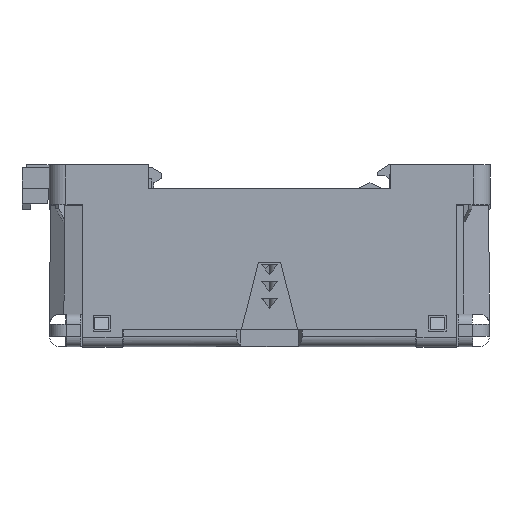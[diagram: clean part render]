
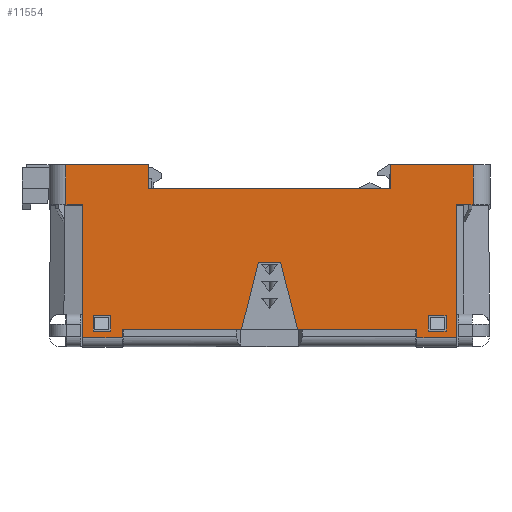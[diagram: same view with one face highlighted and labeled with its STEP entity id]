
A CAD part, left-side view. The second image highlights one B-rep face of the part: STEP entity #11554.
In plain terms, the highlighted planar face has unit normal (-1, 0, 0).
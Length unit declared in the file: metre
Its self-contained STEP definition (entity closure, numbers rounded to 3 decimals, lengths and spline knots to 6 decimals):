
#492=CARTESIAN_POINT('',(-0.019,-0.0218,-0.0197));
#493=VERTEX_POINT('',#492);
#496=CARTESIAN_POINT('',(-0.019,-0.0218,-0.0185));
#497=DIRECTION('',(0.,0.,-1.));
#498=VECTOR('',#497,1.);
#499=LINE('',#496,#498);
#500=CARTESIAN_POINT('',(-0.019,-0.0218,-0.0185));
#501=VERTEX_POINT('',#500);
#502=EDGE_CURVE('',#501,#493,#499,.T.);
#541=CARTESIAN_POINT('',(-0.019,-0.0276,-0.0197));
#542=VERTEX_POINT('',#541);
#545=CARTESIAN_POINT('',(-0.019,-0.0326,-0.0197));
#546=DIRECTION('',(0.,1.,0.));
#547=VECTOR('',#546,1.);
#548=LINE('',#545,#547);
#549=EDGE_CURVE('',#542,#493,#548,.T.);
#574=CARTESIAN_POINT('',(-0.019,-0.0276,-0.0211));
#575=DIRECTION('',(0.,0.,1.));
#576=VECTOR('',#575,1.);
#577=LINE('',#574,#576);
#578=CARTESIAN_POINT('',(-0.019,-0.0276,0.));
#579=VERTEX_POINT('',#578);
#580=EDGE_CURVE('',#542,#579,#577,.T.);
#1315=CARTESIAN_POINT('',(-0.019,0.0218,-0.0211));
#1316=DIRECTION('',(0.,0.,1.));
#1317=VECTOR('',#1316,1.);
#1318=LINE('',#1315,#1317);
#1319=CARTESIAN_POINT('',(-0.019,0.0218,-0.0197));
#1320=VERTEX_POINT('',#1319);
#1321=CARTESIAN_POINT('',(-0.019,0.0218,-0.0185));
#1322=VERTEX_POINT('',#1321);
#1323=EDGE_CURVE('',#1320,#1322,#1318,.T.);
#1369=CARTESIAN_POINT('',(-0.019,-0.0326,-0.0197));
#1370=DIRECTION('',(0.,1.,0.));
#1371=VECTOR('',#1370,1.);
#1372=LINE('',#1369,#1371);
#1373=CARTESIAN_POINT('',(-0.019,0.0276,-0.0197));
#1374=VERTEX_POINT('',#1373);
#1375=EDGE_CURVE('',#1320,#1374,#1372,.T.);
#1417=CARTESIAN_POINT('',(-0.019,0.0276,-0.0211));
#1418=DIRECTION('',(0.,0.,1.));
#1419=VECTOR('',#1418,1.);
#1420=LINE('',#1417,#1419);
#1421=CARTESIAN_POINT('',(-0.019,0.0276,0.));
#1422=VERTEX_POINT('',#1421);
#1423=EDGE_CURVE('',#1374,#1422,#1420,.T.);
#3217=CARTESIAN_POINT('',(-0.019,0.0301,0.0024));
#3218=DIRECTION('',(0.,0.,-1.));
#3219=VECTOR('',#3218,1.);
#3220=LINE('',#3217,#3219);
#3221=CARTESIAN_POINT('',(-0.019,0.0301,0.0059));
#3222=VERTEX_POINT('',#3221);
#3223=CARTESIAN_POINT('',(-0.019,0.0301,0.));
#3224=VERTEX_POINT('',#3223);
#3225=EDGE_CURVE('',#3222,#3224,#3220,.T.);
#3956=CARTESIAN_POINT('',(-0.019,0.0301,0.0059));
#3957=DIRECTION('',(0.,-1.,0.));
#3958=VECTOR('',#3957,1.);
#3959=LINE('',#3956,#3958);
#3960=CARTESIAN_POINT('',(-0.019,0.0179,0.0059));
#3961=VERTEX_POINT('',#3960);
#3962=EDGE_CURVE('',#3222,#3961,#3959,.T.);
#4095=CARTESIAN_POINT('',(-0.019,0.0179,0.0059));
#4096=DIRECTION('',(0.,0.,-1.));
#4097=VECTOR('',#4096,1.);
#4098=LINE('',#4095,#4097);
#4099=CARTESIAN_POINT('',(-0.019,0.0179,0.0024));
#4100=VERTEX_POINT('',#4099);
#4101=EDGE_CURVE('',#3961,#4100,#4098,.T.);
#4947=CARTESIAN_POINT('',(-0.019,-0.0326,0.));
#4948=DIRECTION('',(0.,1.,0.));
#4949=VECTOR('',#4948,1.);
#4950=LINE('',#4947,#4949);
#4951=EDGE_CURVE('',#1422,#3224,#4950,.T.);
#6723=CARTESIAN_POINT('',(-0.019,-0.0301,0.0059));
#6724=VERTEX_POINT('',#6723);
#6727=CARTESIAN_POINT('',(-0.019,-0.0301,0.0024));
#6728=DIRECTION('',(0.,0.,-1.));
#6729=VECTOR('',#6728,1.);
#6730=LINE('',#6727,#6729);
#6731=CARTESIAN_POINT('',(-0.019,-0.0301,0.));
#6732=VERTEX_POINT('',#6731);
#6733=EDGE_CURVE('',#6724,#6732,#6730,.T.);
#7051=CARTESIAN_POINT('',(-0.019,-0.0179,0.0059));
#7052=VERTEX_POINT('',#7051);
#7055=CARTESIAN_POINT('',(-0.019,-0.0179,0.0059));
#7056=DIRECTION('',(0.,-1.,0.));
#7057=VECTOR('',#7056,1.);
#7058=LINE('',#7055,#7057);
#7059=EDGE_CURVE('',#7052,#6724,#7058,.T.);
#7351=CARTESIAN_POINT('',(-0.019,-0.0179,0.0024));
#7352=VERTEX_POINT('',#7351);
#7355=CARTESIAN_POINT('',(-0.019,-0.0179,0.0059));
#7356=DIRECTION('',(0.,0.,-1.));
#7357=VECTOR('',#7356,1.);
#7358=LINE('',#7355,#7357);
#7359=EDGE_CURVE('',#7052,#7352,#7358,.T.);
#7949=CARTESIAN_POINT('',(-0.019,-0.0326,0.0024));
#7950=DIRECTION('',(0.,1.,0.));
#7951=VECTOR('',#7950,1.);
#7952=LINE('',#7949,#7951);
#7953=EDGE_CURVE('',#7352,#4100,#7952,.T.);
#10579=EDGE_CURVE('',#6732,#579,#4950,.T.);
#10934=CARTESIAN_POINT('',(-0.019,0.0218,-0.0185));
#10935=DIRECTION('',(0.,-1.,0.));
#10936=VECTOR('',#10935,1.);
#10937=LINE('',#10934,#10936);
#10938=CARTESIAN_POINT('',(-0.019,-0.00415,-0.0185));
#10939=VERTEX_POINT('',#10938);
#10940=EDGE_CURVE('',#10939,#501,#10937,.T.);
#10962=CARTESIAN_POINT('',(-0.019,0.00415,-0.0185));
#10963=VERTEX_POINT('',#10962);
#10966=EDGE_CURVE('',#1322,#10963,#10937,.T.);
#10985=CARTESIAN_POINT('',(-0.019,0.00415,-0.0185));
#10986=DIRECTION('',(0.,-0.243,0.97));
#10987=VECTOR('',#10986,1.);
#10988=LINE('',#10985,#10987);
#10989=CARTESIAN_POINT('',(-0.019,0.00165,-0.0085));
#10990=VERTEX_POINT('',#10989);
#10991=EDGE_CURVE('',#10963,#10990,#10988,.T.);
#11024=CARTESIAN_POINT('',(-0.019,0.00165,-0.0085));
#11025=DIRECTION('',(0.,-1.,0.));
#11026=VECTOR('',#11025,1.);
#11027=LINE('',#11024,#11026);
#11028=CARTESIAN_POINT('',(-0.019,-0.00165,-0.0085));
#11029=VERTEX_POINT('',#11028);
#11030=EDGE_CURVE('',#10990,#11029,#11027,.T.);
#11063=CARTESIAN_POINT('',(-0.019,-0.00165,-0.0085));
#11064=DIRECTION('',(0.,-0.243,-0.97));
#11065=VECTOR('',#11064,1.);
#11066=LINE('',#11063,#11065);
#11067=EDGE_CURVE('',#11029,#10939,#11066,.T.);
#11383=CARTESIAN_POINT('',(-0.019,0.0235,-0.0187));
#11384=VERTEX_POINT('',#11383);
#11387=CARTESIAN_POINT('',(-0.019,0.0235,-0.0164));
#11388=DIRECTION('',(0.,0.,-1.));
#11389=VECTOR('',#11388,1.);
#11390=LINE('',#11387,#11389);
#11391=CARTESIAN_POINT('',(-0.019,0.0235,-0.0164));
#11392=VERTEX_POINT('',#11391);
#11393=EDGE_CURVE('',#11392,#11384,#11390,.T.);
#11414=CARTESIAN_POINT('',(-0.019,0.0261,-0.0164));
#11415=DIRECTION('',(0.,-1.,0.));
#11416=VECTOR('',#11415,1.);
#11417=LINE('',#11414,#11416);
#11418=CARTESIAN_POINT('',(-0.019,0.0261,-0.0164));
#11419=VERTEX_POINT('',#11418);
#11420=EDGE_CURVE('',#11419,#11392,#11417,.T.);
#11441=CARTESIAN_POINT('',(-0.019,0.0261,-0.0187));
#11442=DIRECTION('',(0.,0.,1.));
#11443=VECTOR('',#11442,1.);
#11444=LINE('',#11441,#11443);
#11445=CARTESIAN_POINT('',(-0.019,0.0261,-0.0187));
#11446=VERTEX_POINT('',#11445);
#11447=EDGE_CURVE('',#11446,#11419,#11444,.T.);
#11468=CARTESIAN_POINT('',(-0.019,0.0235,-0.0187));
#11469=DIRECTION('',(0.,1.,0.));
#11470=VECTOR('',#11469,1.);
#11471=LINE('',#11468,#11470);
#11472=EDGE_CURVE('',#11384,#11446,#11471,.T.);
#11487=CARTESIAN_POINT('',(-0.019,-0.0326,0.0024));
#11488=DIRECTION('',(-1.,0.,0.));
#11489=DIRECTION('',(0.,-1.,0.));
#11490=AXIS2_PLACEMENT_3D('',#11487,#11488,#11489);
#11491=PLANE('',#11490);
#11492=CARTESIAN_POINT('',(-0.019,-0.0261,-0.0187));
#11493=DIRECTION('',(0.,1.,0.));
#11494=VECTOR('',#11493,1.);
#11495=LINE('',#11492,#11494);
#11496=CARTESIAN_POINT('',(-0.019,-0.0261,-0.0187));
#11497=VERTEX_POINT('',#11496);
#11498=CARTESIAN_POINT('',(-0.019,-0.0235,-0.0187));
#11499=VERTEX_POINT('',#11498);
#11500=EDGE_CURVE('',#11497,#11499,#11495,.T.);
#11501=ORIENTED_EDGE('',*,*,#11500,.T.);
#11502=CARTESIAN_POINT('',(-0.019,-0.0235,-0.0187));
#11503=DIRECTION('',(0.,0.,1.));
#11504=VECTOR('',#11503,1.);
#11505=LINE('',#11502,#11504);
#11506=CARTESIAN_POINT('',(-0.019,-0.0235,-0.0164));
#11507=VERTEX_POINT('',#11506);
#11508=EDGE_CURVE('',#11499,#11507,#11505,.T.);
#11509=ORIENTED_EDGE('',*,*,#11508,.T.);
#11510=CARTESIAN_POINT('',(-0.019,-0.0235,-0.0164));
#11511=DIRECTION('',(0.,-1.,0.));
#11512=VECTOR('',#11511,1.);
#11513=LINE('',#11510,#11512);
#11514=CARTESIAN_POINT('',(-0.019,-0.0261,-0.0164));
#11515=VERTEX_POINT('',#11514);
#11516=EDGE_CURVE('',#11507,#11515,#11513,.T.);
#11517=ORIENTED_EDGE('',*,*,#11516,.T.);
#11518=CARTESIAN_POINT('',(-0.019,-0.0261,-0.0164));
#11519=DIRECTION('',(0.,0.,-1.));
#11520=VECTOR('',#11519,1.);
#11521=LINE('',#11518,#11520);
#11522=EDGE_CURVE('',#11515,#11497,#11521,.T.);
#11523=ORIENTED_EDGE('',*,*,#11522,.T.);
#11524=EDGE_LOOP('',(#11501,#11509,#11517,#11523));
#11525=FACE_BOUND('',#11524,.T.);
#11526=ORIENTED_EDGE('',*,*,#11472,.T.);
#11527=ORIENTED_EDGE('',*,*,#11447,.T.);
#11528=ORIENTED_EDGE('',*,*,#11420,.T.);
#11529=ORIENTED_EDGE('',*,*,#11393,.T.);
#11530=EDGE_LOOP('',(#11526,#11527,#11528,#11529));
#11531=FACE_BOUND('',#11530,.T.);
#11532=ORIENTED_EDGE('',*,*,#11030,.T.);
#11533=ORIENTED_EDGE('',*,*,#11067,.T.);
#11534=ORIENTED_EDGE('',*,*,#10940,.T.);
#11535=ORIENTED_EDGE('',*,*,#502,.T.);
#11536=ORIENTED_EDGE('',*,*,#549,.F.);
#11537=ORIENTED_EDGE('',*,*,#580,.T.);
#11538=ORIENTED_EDGE('',*,*,#10579,.F.);
#11539=ORIENTED_EDGE('',*,*,#6733,.F.);
#11540=ORIENTED_EDGE('',*,*,#7059,.F.);
#11541=ORIENTED_EDGE('',*,*,#7359,.T.);
#11542=ORIENTED_EDGE('',*,*,#7953,.T.);
#11543=ORIENTED_EDGE('',*,*,#4101,.F.);
#11544=ORIENTED_EDGE('',*,*,#3962,.F.);
#11545=ORIENTED_EDGE('',*,*,#3225,.T.);
#11546=ORIENTED_EDGE('',*,*,#4951,.F.);
#11547=ORIENTED_EDGE('',*,*,#1423,.F.);
#11548=ORIENTED_EDGE('',*,*,#1375,.F.);
#11549=ORIENTED_EDGE('',*,*,#1323,.T.);
#11550=ORIENTED_EDGE('',*,*,#10966,.T.);
#11551=ORIENTED_EDGE('',*,*,#10991,.T.);
#11552=EDGE_LOOP('',(#11532,#11533,#11534,#11535,#11536,#11537,#11538,#11539,#11540,#11541,#11542,#11543,#11544,#11545,#11546,#11547,#11548,#11549,#11550,#11551));
#11553=FACE_BOUND('',#11552,.T.);
#11554=ADVANCED_FACE('',(#11525,#11531,#11553),#11491,.T.);
